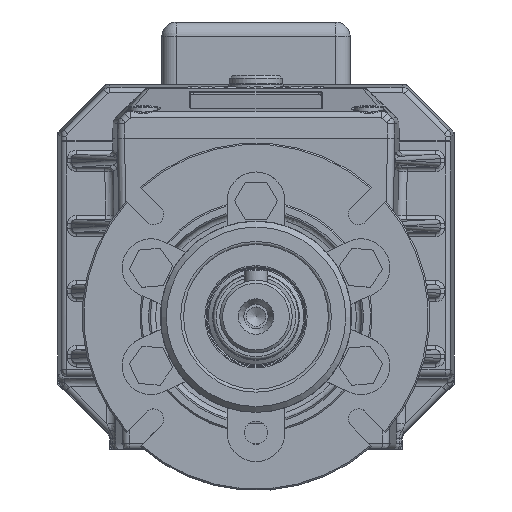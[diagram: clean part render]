
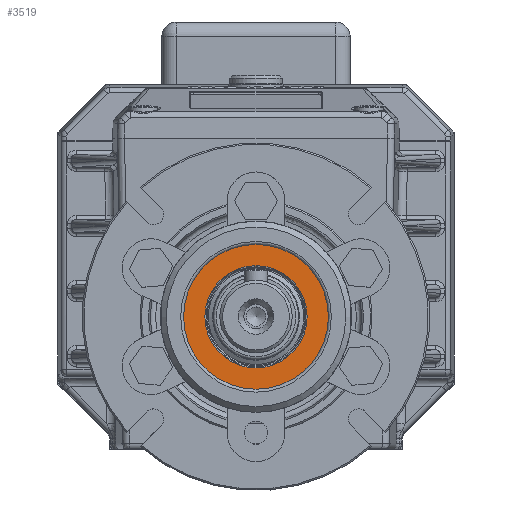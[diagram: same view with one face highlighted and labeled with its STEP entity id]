
A CAD part, top view. The second image highlights one B-rep face of the part: STEP entity #3519.
In plain terms, the highlighted planar face has unit normal (0, 0, 1).
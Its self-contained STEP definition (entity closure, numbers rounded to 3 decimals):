
#3519 = ADVANCED_FACE( '', ( #7465, #7466 ), #7467, .T. );
#7465 = FACE_OUTER_BOUND( '', #16565, .T. );
#7466 = FACE_BOUND( '', #16566, .T. );
#7467 = PLANE( '', #16567 );
#16565 = EDGE_LOOP( '', ( #27254 ) );
#16566 = EDGE_LOOP( '', ( #27255 ) );
#16567 = AXIS2_PLACEMENT_3D( '', #27256, #27257, #27258 );
#27254 = ORIENTED_EDGE( '', *, *, #32791, .T. );
#27255 = ORIENTED_EDGE( '', *, *, #33758, .F. );
#27256 = CARTESIAN_POINT( '', ( 0., 25., 7. ) );
#27257 = DIRECTION( '', ( 0., 0., 1. ) );
#27258 = DIRECTION( '', ( 0., -1., 0. ) );
#32791 = EDGE_CURVE( '', #39142, #39142, #39143, .F. );
#33758 = EDGE_CURVE( '', #40338, #40338, #40339, .T. );
#39142 = VERTEX_POINT( '', #52961 );
#39143 = CIRCLE( '', #52962, 25. );
#40338 = VERTEX_POINT( '', #56127 );
#40339 = CIRCLE( '', #56128, 17.66 );
#52961 = CARTESIAN_POINT( '', ( 0., 25., 7. ) );
#52962 = AXIS2_PLACEMENT_3D( '', #59767, #59768, #59769 );
#56127 = CARTESIAN_POINT( '', ( 0., -17.66, 7. ) );
#56128 = AXIS2_PLACEMENT_3D( '', #60588, #60589, #60590 );
#59767 = CARTESIAN_POINT( '', ( 0., 0., 7. ) );
#59768 = DIRECTION( '', ( 0., 0., -1. ) );
#59769 = DIRECTION( '', ( 0., 1., 0. ) );
#60588 = CARTESIAN_POINT( '', ( 0., 0., 7. ) );
#60589 = DIRECTION( '', ( 0., 0., 1. ) );
#60590 = DIRECTION( '', ( 0., -1., 0. ) );
